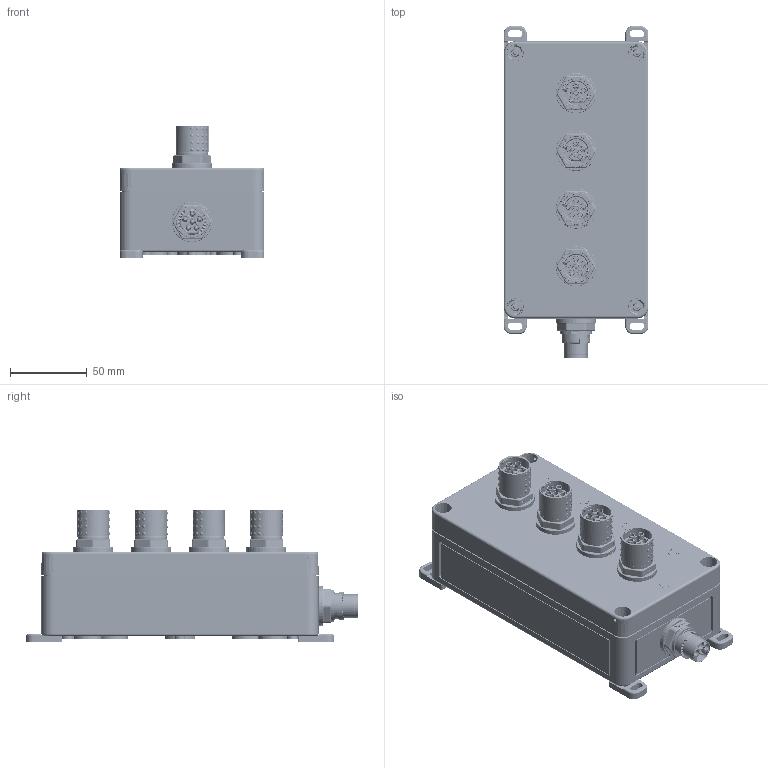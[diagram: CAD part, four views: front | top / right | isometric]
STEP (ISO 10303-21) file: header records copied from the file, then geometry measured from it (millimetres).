
FILE_DESCRIPTION (( 'STEP AP203' ), '1' );
FILE_NAME ('1145370_X-TEC_15K_VERTEILER_STEP.STEP', '2023-10-11T06:59:01', ( '' ), ( '' ), 'SwSTEP 2.0', 'SolidWorks 2021', '' );
FILE_SCHEMA (( 'CONFIG_CONTROL_DESIGN' ));
Products named in the file (1): 1145370_X-TEC_15K_VERTEILER_STEP
Bounding box: 94 x 215.6 x 85.96 mm (x, y, z)
Volume: 255739.8 mm3; surface area: 222887.8 mm2
Topology: 64 solids, 64 shells, 7968 faces, 19759 edges, 12897 vertices
Faces by surface type: plane 3844, cylinder 2201, bspline 1275, torus 355, cone 292, sphere 1
Full cylindrical faces by diameter (mm): 0.2 x330, 0.8 x30, 1.6 x54, 1.75 x6, 2.2 x2, 2.25 x28, 2.5 x49, 2.53 x2, 2.6 x12, 2.8 x6, 3 x4, 3.1 x17, 3.12 x24, 3.2 x18, 3.3 x6, 3.4 x6, 3.5 x48, 3.53 x8, 3.6 x24, 4 x6, 4.4 x3, 5 x4, 7 x8, 8.376 x4, 9 x5, 14.11 x4, 15.2 x1, 15.4 x1, 16.9 x4, 18.17 x5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
Entity records: 330990 total; most frequent: CARTESIAN_POINT 157807, ORIENTED_EDGE 36540, DIRECTION 31802, EDGE_CURVE 18270, VERTEX_POINT 12455, AXIS2_PLACEMENT_3D 11544, EDGE_LOOP 10203, FACE_OUTER_BOUND 8740
